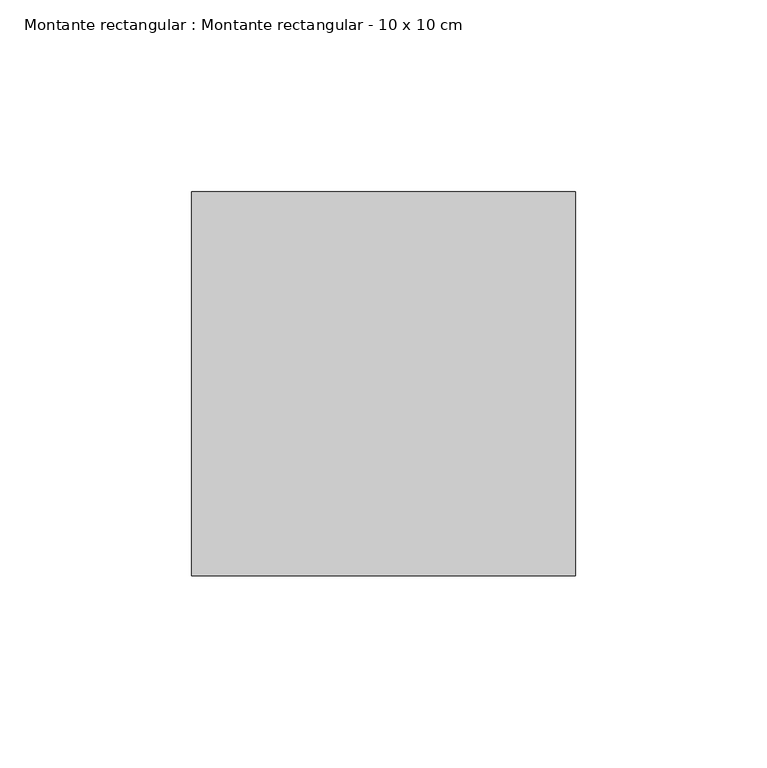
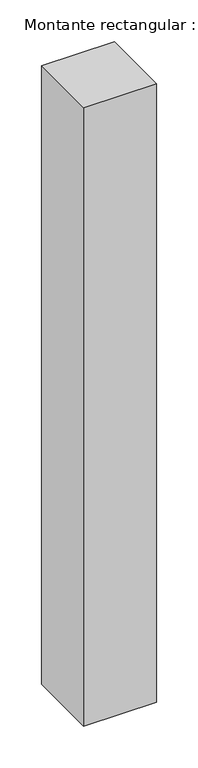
"""IFC4 building model written with IfcOpenShell, lengths in millimetres: member geometry, Montante rectangular : Montante rectangular - 10 x 10 cm."""

from ifc_helpers import new_model, si_unit, frame, origin, place, context, project, spatial, polyline, outline, extrude, source, transform, mapped, element, save


def montante_rectangular_montante_rectangular_10_x_10_cm_7a5472a0(model_context):
    return source(origin(), model_context, "Body", "SweptSolid", [
        extrude(outline(polyline([(0.0, -50.0), (-100.0, -50.0), (-100.0, 50.0), (0.0, 50.0), (0.0, -50.0)])), frame((0.0, 0.0, -900.0), z_axis=(0.0, 0.0, 1.0), x_axis=(1.0, 0.0, 0.0)), (0.0, 0.0, 1.0), 900.0),
    ])


if __name__ == "__main__":
    model = new_model("IFC4")
    model_context = context("Model", 3, world=origin())
    ifc_project = project(units=[si_unit("LENGTHUNIT", "METRE", prefix="MILLI")], contexts=[model_context])
    site = spatial("IfcSite", under=ifc_project)
    building = spatial("IfcBuilding", under=site)
    placement = place(None, origin())
    montante_rectangular_montante_rectangular_10_x_10_cm_shape = montante_rectangular_montante_rectangular_10_x_10_cm_7a5472a0(model_context)
    element("IfcMember", 1, ObjectType="Montante rectangular : Montante rectangular - 10 x 10 cm", at=placement, inside=building, context=model_context, shape_type="MappedRepresentation", body=[
        mapped(montante_rectangular_montante_rectangular_10_x_10_cm_shape, transform((0.0, 0.0, 0.0), x_axis=(1.0, 0.0, 0.0), y_axis=(0.0, 1.0, 0.0), z_axis=(0.0, 0.0, 1.0))),
    ])
    save(model, "model.ifc")
